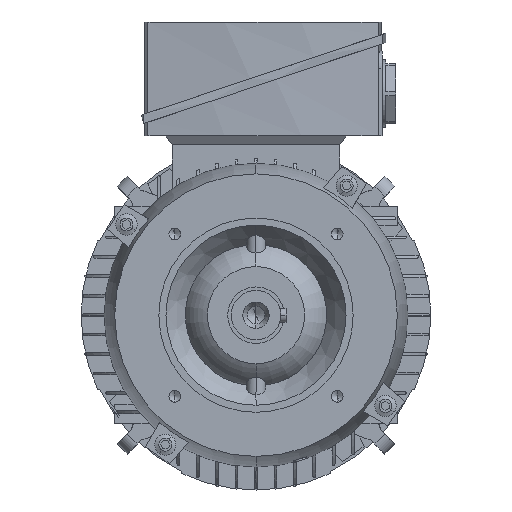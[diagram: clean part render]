
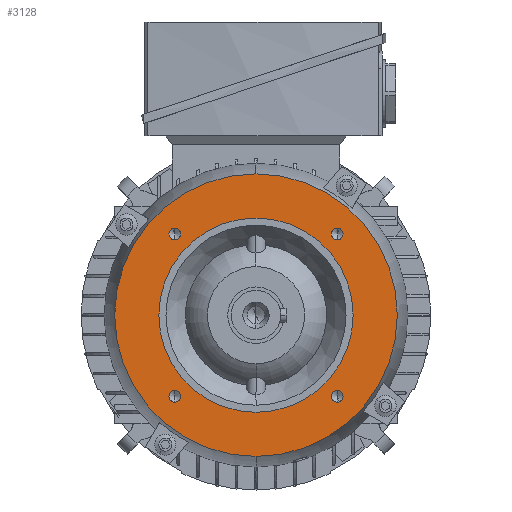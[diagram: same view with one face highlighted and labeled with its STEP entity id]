
A CAD part, left-side view. The second image highlights one B-rep face of the part: STEP entity #3128.
In plain terms, the highlighted planar face has unit normal (-1, 0, 0).
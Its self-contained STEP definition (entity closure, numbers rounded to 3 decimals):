
#3128=ADVANCED_FACE('',(#6305,#6306,#6307,#6308,#6309,#6310),#6311,.T.);
#6305=FACE_BOUND('',#9484,.T.);
#6306=FACE_BOUND('',#9485,.T.);
#6307=FACE_BOUND('',#9486,.T.);
#6308=FACE_BOUND('',#9487,.T.);
#6309=FACE_OUTER_BOUND('',#9488,.T.);
#6310=FACE_BOUND('',#9489,.T.);
#6311=PLANE('',#9490);
#9484=EDGE_LOOP('',(#19375,#19376));
#9485=EDGE_LOOP('',(#19377,#19378));
#9486=EDGE_LOOP('',(#19379,#19380));
#9487=EDGE_LOOP('',(#19381,#19382));
#9488=EDGE_LOOP('',(#19383,#19384));
#9489=EDGE_LOOP('',(#19385,#19386));
#9490=AXIS2_PLACEMENT_3D('',#19387,#19388,#19389);
#19375=ORIENTED_EDGE('',*,*,#23305,.T.);
#19376=ORIENTED_EDGE('',*,*,#19633,.T.);
#19377=ORIENTED_EDGE('',*,*,#23309,.T.);
#19378=ORIENTED_EDGE('',*,*,#19625,.T.);
#19379=ORIENTED_EDGE('',*,*,#23313,.T.);
#19380=ORIENTED_EDGE('',*,*,#19617,.T.);
#19381=ORIENTED_EDGE('',*,*,#23317,.T.);
#19382=ORIENTED_EDGE('',*,*,#19609,.T.);
#19383=ORIENTED_EDGE('',*,*,#23340,.F.);
#19384=ORIENTED_EDGE('',*,*,#19596,.F.);
#19385=ORIENTED_EDGE('',*,*,#19584,.T.);
#19386=ORIENTED_EDGE('',*,*,#23390,.T.);
#19387=CARTESIAN_POINT('',(-40.5,0.0,67.5));
#19388=DIRECTION('',(-1.0,0.0,0.));
#19389=DIRECTION('',(0.,0.0,-1.0));
#19584=EDGE_CURVE('',#23581,#23585,#23587,.T.);
#19596=EDGE_CURVE('',#23600,#23603,#23604,.T.);
#19609=EDGE_CURVE('',#23628,#23625,#23629,.T.);
#19617=EDGE_CURVE('',#23641,#23638,#23642,.T.);
#19625=EDGE_CURVE('',#23654,#23651,#23655,.T.);
#19633=EDGE_CURVE('',#23667,#23664,#23668,.T.);
#23305=EDGE_CURVE('',#23664,#23667,#29141,.T.);
#23309=EDGE_CURVE('',#23651,#23654,#29145,.T.);
#23313=EDGE_CURVE('',#23638,#23641,#29149,.T.);
#23317=EDGE_CURVE('',#23625,#23628,#29153,.T.);
#23340=EDGE_CURVE('',#23603,#23600,#29188,.T.);
#23390=EDGE_CURVE('',#23585,#23581,#29252,.T.);
#23581=VERTEX_POINT('',#29579);
#23585=VERTEX_POINT('',#29584);
#23587=CIRCLE('',#29587,55.0);
#23600=VERTEX_POINT('',#29680);
#23603=VERTEX_POINT('',#29683);
#23604=CIRCLE('',#29684,80.);
#23625=VERTEX_POINT('',#29741);
#23628=VERTEX_POINT('',#29745);
#23629=CIRCLE('',#29746,3.325);
#23638=VERTEX_POINT('',#29758);
#23641=VERTEX_POINT('',#29762);
#23642=CIRCLE('',#29763,3.325);
#23651=VERTEX_POINT('',#29775);
#23654=VERTEX_POINT('',#29779);
#23655=CIRCLE('',#29780,3.325);
#23664=VERTEX_POINT('',#29792);
#23667=VERTEX_POINT('',#29796);
#23668=CIRCLE('',#29797,3.325);
#29141=CIRCLE('',#41959,3.325);
#29145=CIRCLE('',#41963,3.325);
#29149=CIRCLE('',#41967,3.325);
#29153=CIRCLE('',#41971,3.325);
#29188=CIRCLE('',#42050,80.);
#29252=CIRCLE('',#42276,55.0);
#29579=CARTESIAN_POINT('',(-40.5,0.0,55.0));
#29584=CARTESIAN_POINT('',(-40.5,0.,-55.0));
#29587=AXIS2_PLACEMENT_3D('',#42386,#42387,#42388);
#29680=CARTESIAN_POINT('',(-40.5,0.,-80.));
#29683=CARTESIAN_POINT('',(-40.5,0.0,80.));
#29684=AXIS2_PLACEMENT_3D('',#42396,#42397,#42398);
#29741=CARTESIAN_POINT('',(-40.5,-45.962,42.637));
#29745=CARTESIAN_POINT('',(-40.5,-45.962,49.287));
#29746=AXIS2_PLACEMENT_3D('',#42418,#42419,#42420);
#29758=CARTESIAN_POINT('',(-40.5,-45.962,-49.287));
#29762=CARTESIAN_POINT('',(-40.5,-45.962,-42.637));
#29763=AXIS2_PLACEMENT_3D('',#42428,#42429,#42430);
#29775=CARTESIAN_POINT('',(-40.5,45.962,-49.287));
#29779=CARTESIAN_POINT('',(-40.5,45.962,-42.637));
#29780=AXIS2_PLACEMENT_3D('',#42438,#42439,#42440);
#29792=CARTESIAN_POINT('',(-40.5,45.962,42.637));
#29796=CARTESIAN_POINT('',(-40.5,45.962,49.287));
#29797=AXIS2_PLACEMENT_3D('',#42448,#42449,#42450);
#41959=AXIS2_PLACEMENT_3D('',#46166,#46167,#46168);
#41963=AXIS2_PLACEMENT_3D('',#46172,#46173,#46174);
#41967=AXIS2_PLACEMENT_3D('',#46178,#46179,#46180);
#41971=AXIS2_PLACEMENT_3D('',#46184,#46185,#46186);
#42050=AXIS2_PLACEMENT_3D('',#46210,#46211,#46212);
#42276=AXIS2_PLACEMENT_3D('',#46249,#46250,#46251);
#42386=CARTESIAN_POINT('',(-40.5,0.0,0.0));
#42387=DIRECTION('',(1.0,0.0,-0.0));
#42388=DIRECTION('',(0.0,0.0,1.0));
#42396=CARTESIAN_POINT('',(-40.5,0.0,0.0));
#42397=DIRECTION('',(1.0,0.0,-0.0));
#42398=DIRECTION('',(0.0,0.0,1.0));
#42418=CARTESIAN_POINT('',(-40.5,-45.962,45.962));
#42419=DIRECTION('',(1.0,0.0,0.));
#42420=DIRECTION('',(0.,0.0,-1.0));
#42428=CARTESIAN_POINT('',(-40.5,-45.962,-45.962));
#42429=DIRECTION('',(1.0,0.0,0.));
#42430=DIRECTION('',(0.,0.0,-1.0));
#42438=CARTESIAN_POINT('',(-40.5,45.962,-45.962));
#42439=DIRECTION('',(1.0,0.0,0.));
#42440=DIRECTION('',(0.,0.0,-1.0));
#42448=CARTESIAN_POINT('',(-40.5,45.962,45.962));
#42449=DIRECTION('',(1.0,0.0,0.));
#42450=DIRECTION('',(0.,0.0,-1.0));
#46166=CARTESIAN_POINT('',(-40.5,45.962,45.962));
#46167=DIRECTION('',(1.0,0.0,0.));
#46168=DIRECTION('',(0.,0.0,-1.0));
#46172=CARTESIAN_POINT('',(-40.5,45.962,-45.962));
#46173=DIRECTION('',(1.0,0.0,0.));
#46174=DIRECTION('',(0.,0.0,-1.0));
#46178=CARTESIAN_POINT('',(-40.5,-45.962,-45.962));
#46179=DIRECTION('',(1.0,0.0,0.));
#46180=DIRECTION('',(0.,0.0,-1.0));
#46184=CARTESIAN_POINT('',(-40.5,-45.962,45.962));
#46185=DIRECTION('',(1.0,0.0,0.));
#46186=DIRECTION('',(0.,0.0,-1.0));
#46210=CARTESIAN_POINT('',(-40.5,0.0,0.0));
#46211=DIRECTION('',(1.0,0.0,-0.0));
#46212=DIRECTION('',(0.0,0.0,1.0));
#46249=CARTESIAN_POINT('',(-40.5,0.0,0.0));
#46250=DIRECTION('',(1.0,0.0,-0.0));
#46251=DIRECTION('',(0.0,0.0,1.0));
